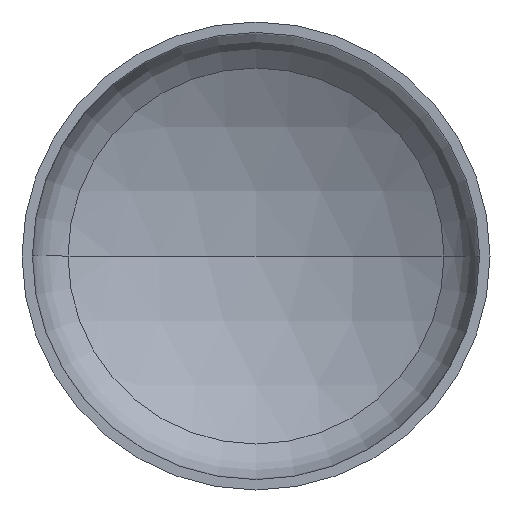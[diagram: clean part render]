
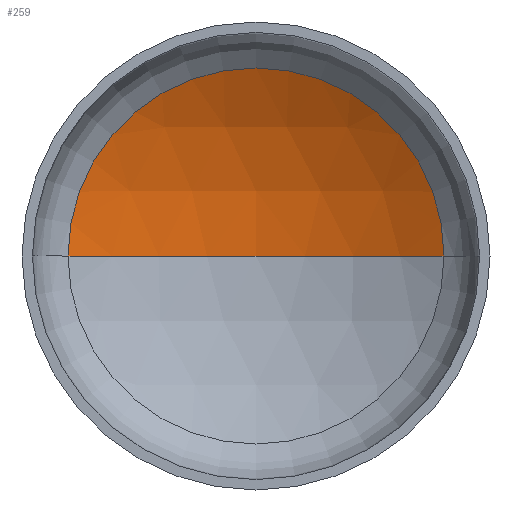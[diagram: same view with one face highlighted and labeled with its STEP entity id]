
A CAD part, front view. The second image highlights one B-rep face of the part: STEP entity #259.
In plain terms, the highlighted spherical face has radius 1440 mm.
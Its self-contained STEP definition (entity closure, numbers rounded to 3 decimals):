
#3 = ORIENTED_EDGE ( 'NONE', *, *, #148, .F. ) ;
#4 = VERTEX_POINT ( 'NONE', #382 ) ;
#9 = EDGE_LOOP ( 'NONE', ( #3, #205, #90 ) ) ;
#27 = DIRECTION ( 'NONE',  ( 1., 0., 0. ) ) ;
#35 = VERTEX_POINT ( 'NONE', #290 ) ;
#39 = DIRECTION ( 'NONE',  ( 0., -1., 0. ) ) ;
#43 = AXIS2_PLACEMENT_3D ( 'NONE', #255, #287, #178 ) ;
#63 = AXIS2_PLACEMENT_3D ( 'NONE', #196, #208, #209 ) ;
#67 = AXIS2_PLACEMENT_3D ( 'NONE', #277, #230, #370 ) ;
#73 = AXIS2_PLACEMENT_3D ( 'NONE', #203, #39, #27 ) ;
#87 = VERTEX_POINT ( 'NONE', #246 ) ;
#90 = ORIENTED_EDGE ( 'NONE', *, *, #146, .T. ) ;
#146 = EDGE_CURVE ( 'NONE', #4, #35, #243, .T. ) ;
#147 = EDGE_CURVE ( 'NONE', #87, #4, #181, .T. ) ;
#148 = EDGE_CURVE ( 'NONE', #87, #35, #366, .T. ) ;
#172 = SPHERICAL_SURFACE ( 'NONE', #43, 1440. ) ;
#178 = DIRECTION ( 'NONE',  ( -1., 0., 0. ) ) ;
#181 = CIRCLE ( 'NONE', #67, 1440. ) ;
#196 = CARTESIAN_POINT ( 'NONE',  ( 0., -887.472, 0. ) ) ;
#203 = CARTESIAN_POINT ( 'NONE',  ( 0., 357.815, 0. ) ) ;
#205 = ORIENTED_EDGE ( 'NONE', *, *, #147, .T. ) ;
#208 = DIRECTION ( 'NONE',  ( 0., 0., 1. ) ) ;
#209 = DIRECTION ( 'NONE',  ( 1., 0., 0. ) ) ;
#230 = DIRECTION ( 'NONE',  ( 0., 0., -1. ) ) ;
#243 = CIRCLE ( 'NONE', #73, 723.09 ) ;
#246 = CARTESIAN_POINT ( 'NONE',  ( 0., 552.528, 0. ) ) ;
#255 = CARTESIAN_POINT ( 'NONE',  ( 0., -887.472, 0. ) ) ;
#259 = ADVANCED_FACE ( 'NONE', ( #406 ), #172, .F. ) ;
#277 = CARTESIAN_POINT ( 'NONE',  ( 0., -887.472, 0. ) ) ;
#287 = DIRECTION ( 'NONE',  ( 0., 0., -1. ) ) ;
#290 = CARTESIAN_POINT ( 'NONE',  ( -723.09, 357.815, 0. ) ) ;
#366 = CIRCLE ( 'NONE', #63, 1440. ) ;
#370 = DIRECTION ( 'NONE',  ( -1., 0., 0. ) ) ;
#382 = CARTESIAN_POINT ( 'NONE',  ( 723.09, 357.815, 0. ) ) ;
#406 = FACE_OUTER_BOUND ( 'NONE', #9, .T. ) ;
